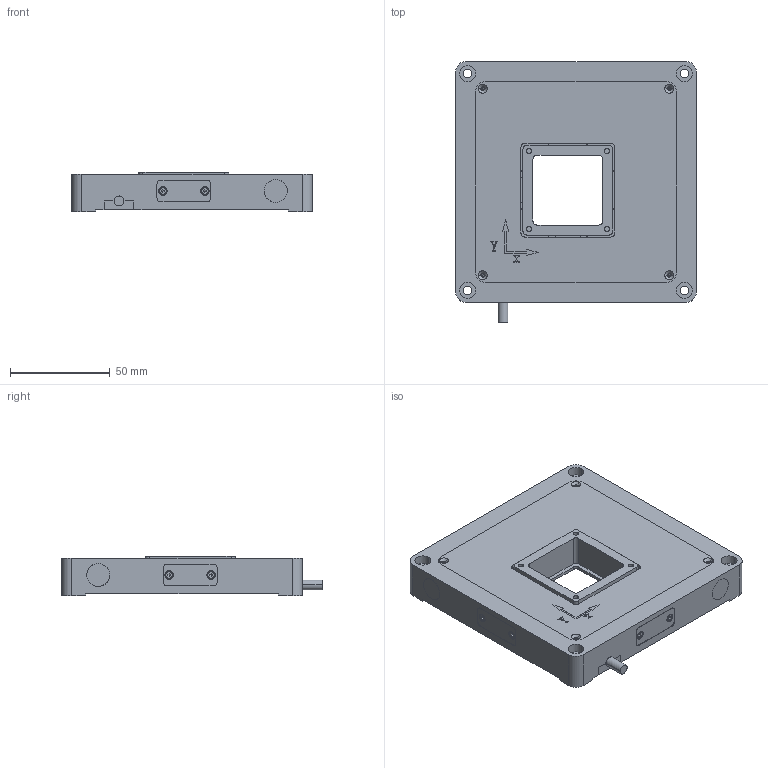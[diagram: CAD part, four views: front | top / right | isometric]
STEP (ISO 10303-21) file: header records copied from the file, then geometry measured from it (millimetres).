
FILE_DESCRIPTION (( 'STEP AP203' ), '1' );
FILE_NAME ('媼峎菴媼唳.STEP', '2023-10-17T08:01:34', ( '' ), ( '' ), 'SwSTEP 2.0', 'SolidWorks 2021', '' );
FILE_SCHEMA (( 'CONFIG_CONTROL_DESIGN' ));
Length unit declared in the file: millimetre
Products named in the file (20): hexagon socket head cap screws gb_GB_FASTENER_SCREWS_HSHCS M2X6-N; 揤盄輸; 电容传感器定极板_2; pzt啎踡蹟隊M7; pzt_H40_7; 攝韓黑芛_1; 奻啣; 狟啣; 堤盄傷; 电容传感器动极板_2; M2x3; 2021.7.14_test_3_3_2; 揤盄え; tanhuangyujinluoding_3_M11; 动子电容支撑_2; 媼峎菴媼唳; cross recessed ctsk wood screws gb_GB_WOOD_SCREWS_TYPE135 2X6-N; yujintanhuang_5; hexagon socket head cap screws gb_GB_FASTENER_SCREWS_HSHCS M2X5-N; 定子电容调节_7
Assembly tree (53 placements, depth 2):
  媼峎菴媼唳
    2021.7.14_test_3_3_2
    pzt_H40_7  x2
    pzt啎踡蹟隊M7  x2
    tanhuangyujinluoding_3_M11  x4
    yujintanhuang_5  x4
    定子电容调节_7  x2
    动子电容支撑_2  x2
    电容传感器动极板_2  x2
    电容传感器定极板_2  x2
    奻啣
    狟啣
    攝韓黑芛_1  x3
    揤盄輸
    hexagon socket head cap screws gb_GB_FASTENER_SCREWS_HSHCS M2X6-N  x8
    hexagon socket head cap screws gb_GB_FASTENER_SCREWS_HSHCS M2X5-N  x2
    cross recessed ctsk wood screws gb_GB_WOOD_SCREWS_TYPE135 2X6-N  x4
    堤盄傷
    揤盄え  x7
    M2x3  x4
Bounding box: 120.5 x 130.5 x 20 mm (x, y, z)
Volume: 178919.6 mm3; surface area: 117647.8 mm2
Topology: 55 solids, 55 shells, 2031 faces, 5395 edges, 3442 vertices
Faces by surface type: plane 1295, cylinder 485, cone 172, torus 53, bspline 22, sphere 4
Entity records: 49898 total; most frequent: CARTESIAN_POINT 9905, ORIENTED_EDGE 7808, DIRECTION 7459, EDGE_CURVE 3904, VECTOR 3071, LINE 3071, VERTEX_POINT 2568, AXIS2_PLACEMENT_3D 2194
